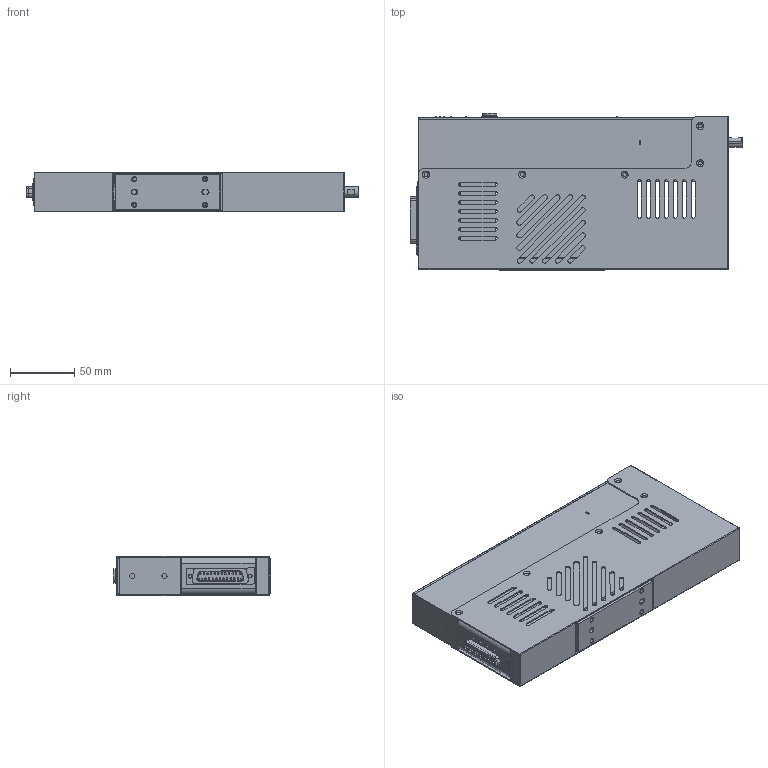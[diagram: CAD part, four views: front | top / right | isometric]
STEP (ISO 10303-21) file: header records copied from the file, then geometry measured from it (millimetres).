
FILE_DESCRIPTION((''),'2;1');
FILE_NAME('ZREMM8-X3-S45-M28_ASM_ASM','2023-02-15T',('12562'),(''),'PRO/ENGINEER BY PARAMETRIC TECHNOLOGY CORPORATION, 2014320','PRO/ENGINEER BY PARAMETRIC TECHNOLOGY CORPORATION, 2014320','');
FILE_SCHEMA(('CONFIG_CONTROL_DESIGN'));
Products named in the file (39): FHZXQ-X3-45-01_201; DLB_11; FHZXQ-X3-45-05_26; FHZXQ-X3-45-10_69; PCB__1; 28DJ_7; 11400138_1; ____1-5255_1; ____-____4-18873_1; 12802095_2X5_ASM_1_ASM; 10600083_1; ____1-11071_1; ____-____4-24186_1; 12802095_2X6_ASM_1_ASM; 10600248_1; ____1-2727_1; ____-____4-21978_2; 12802095_2X2_ASM_1_ASM; 10600177_1; BJ_LITPCB_2; _________6_1; XINPIAN_1; ASM0002_ASM_1_ASM; PCBA_ASSE_ASM_2_ASM; M3-5-4_4; ASM0006_ASM_1_ASM; GPA40GT2060-A-P11_ASM_1_ASM; ASM0007_ASM_1_ASM; GPA20GT2060-A-H5_ASM_1_ASM; AHTF20S3M060_ASM_2_ASM; SSELB6-70_ASM_34; ASM0008_ASM_5_ASM; SLT08-180_24; FHZXQ-X3-45-08_36; KSL06-M5_1; DB25_1; FHZXQ-X3-45-12_10; SVZ-08-X3-SL45-M28-EC_ASM_291_ASM; ZREMM8-X3-S45-M28_ASM_ASM
Assembly tree (48 placements, depth 6):
  ZREMM8-X3-S45-M28_ASM_ASM
    SVZ-08-X3-SL45-M28-EC_ASM_291_ASM
      FHZXQ-X3-45-01_201
      DLB_11
      FHZXQ-X3-45-05_26
      FHZXQ-X3-45-10_69
      PCB__1
      28DJ_7
      PCBA_ASSE_ASM_2_ASM
        ASM0002_ASM_1_ASM
          11400138_1  x8
          12802095_2X5_ASM_1_ASM
            ____1-5255_1
            ____-____4-18873_1
          10600083_1  x2
          12802095_2X6_ASM_1_ASM
            ____1-11071_1
            ____-____4-24186_1
          10600248_1
          12802095_2X2_ASM_1_ASM  x2
            ____1-2727_1
            ____-____4-21978_2
          10600177_1
          BJ_LITPCB_2
          _________6_1
          XINPIAN_1
      M3-5-4_4  x2
      GPA40GT2060-A-P11_ASM_1_ASM
        ASM0006_ASM_1_ASM
      GPA20GT2060-A-H5_ASM_1_ASM
        ASM0007_ASM_1_ASM
      AHTF20S3M060_ASM_2_ASM
      SSELB6-70_ASM_34
      ASM0008_ASM_5_ASM
      SLT08-180_24
      FHZXQ-X3-45-08_36
      KSL06-M5_1
      DB25_1
      FHZXQ-X3-45-12_10
Bounding box: 259.04 x 123 x 31 mm (x, y, z)
Volume: 605399 mm3; surface area: 224260.1 mm2
Topology: 35 solids, 259 shells, 5438 faces, 14973 edges, 10173 vertices
Faces by surface type: plane 4389, cylinder 897, cone 91, torus 32, sphere 29
Full cylindrical faces by diameter (mm): 0.03 x1
Entity records: 174438 total; most frequent: CARTESIAN_POINT 40515, ORIENTED_EDGE 28479, DIRECTION 25264, EDGE_CURVE 14566, VECTOR 10232, LINE 10232, VERTEX_POINT 9951, AXIS2_PLACEMENT_3D 7516
